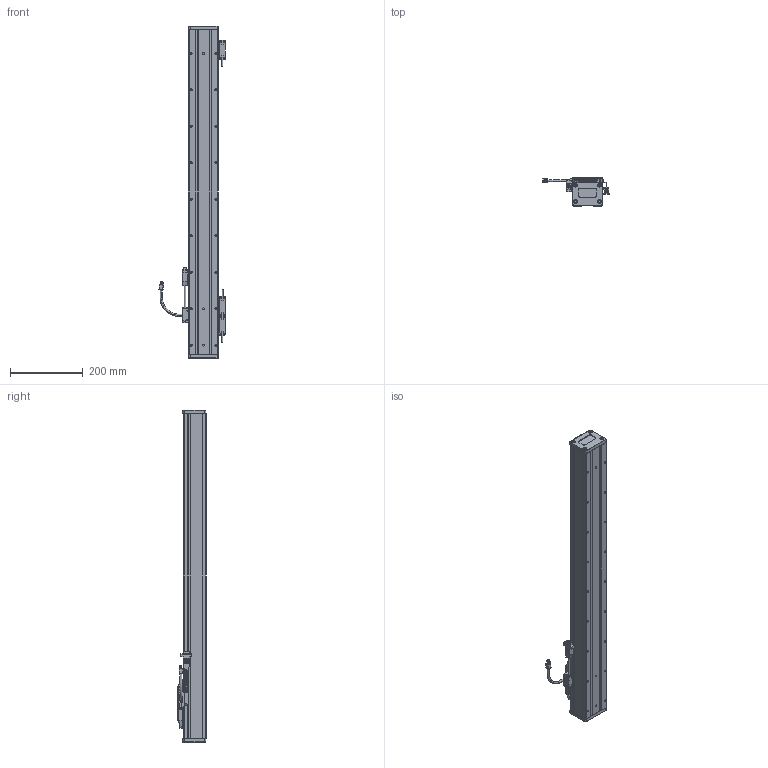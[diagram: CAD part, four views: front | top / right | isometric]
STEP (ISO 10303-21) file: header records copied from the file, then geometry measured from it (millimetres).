
FILE_DESCRIPTION(('Open CASCADE Model'),'2;1');
FILE_NAME('Open CASCADE Shape Model','2025-11-07T02:24:31',('Author'),( 'Open CASCADE'),'Open CASCADE STEP processor 7.6','Open CASCADE 7.6' ,'Unknown');
FILE_SCHEMA(('AUTOMOTIVE_DESIGN { 1 0 10303 214 1 1 1 1 }'));
Length unit declared in the file: millimetre
Products named in the file (24): Open CASCADE STEP translator 7.6 183; Open CASCADE STEP translator 7.6 183.1; Open CASCADE STEP translator 7.6 183.2; Open CASCADE STEP translator 7.6 183.3; Open CASCADE STEP translator 7.6 183.4; Open CASCADE STEP translator 7.6 183.5; Open CASCADE STEP translator 7.6 183.6; Open CASCADE STEP translator 7.6 183.7; Open CASCADE STEP translator 7.6 183.7.1; Open CASCADE STEP translator 7.6 183.7.1.1; Open CASCADE STEP translator 7.6 183.7.1.2; Open CASCADE STEP translator 7.6 183.8; Open CASCADE STEP translator 7.6 183.9; Open CASCADE STEP translator 7.6 183.10; Open CASCADE STEP translator 7.6 183.10.1; Open CASCADE STEP translator 7.6 183.10.1.1; Open CASCADE STEP translator 7.6 183.10.1.2; Open CASCADE STEP translator 7.6 183.10.1.3; Open CASCADE STEP translator 7.6 183.11; Open CASCADE STEP translator 7.6 183.12; Open CASCADE STEP translator 7.6 183.13; Open CASCADE STEP translator 7.6 183.14; Open CASCADE STEP translator 7.6 183.15; Open CASCADE STEP translator 7.6 183.16
Assembly tree (23 placements, depth 4):
  Open CASCADE STEP translator 7.6 183
    Open CASCADE STEP translator 7.6 183.1
    Open CASCADE STEP translator 7.6 183.2
    Open CASCADE STEP translator 7.6 183.3
    Open CASCADE STEP translator 7.6 183.4
    Open CASCADE STEP translator 7.6 183.5
    Open CASCADE STEP translator 7.6 183.6
    Open CASCADE STEP translator 7.6 183.7
      Open CASCADE STEP translator 7.6 183.7.1
        Open CASCADE STEP translator 7.6 183.7.1.1
        Open CASCADE STEP translator 7.6 183.7.1.2
    Open CASCADE STEP translator 7.6 183.8
    Open CASCADE STEP translator 7.6 183.9
    Open CASCADE STEP translator 7.6 183.10
      Open CASCADE STEP translator 7.6 183.10.1
        Open CASCADE STEP translator 7.6 183.10.1.1
        Open CASCADE STEP translator 7.6 183.10.1.2
        Open CASCADE STEP translator 7.6 183.10.1.3
    Open CASCADE STEP translator 7.6 183.11
    Open CASCADE STEP translator 7.6 183.12
    Open CASCADE STEP translator 7.6 183.13
    Open CASCADE STEP translator 7.6 183.14
    Open CASCADE STEP translator 7.6 183.15
    Open CASCADE STEP translator 7.6 183.16
Bounding box: 181.25 x 78 x 910 mm (x, y, z)
Volume: 2773604 mm3; surface area: 604084.9 mm2
Topology: 19 solids, 19 shells, 1930 faces, 4881 edges, 3101 vertices
Faces by surface type: plane 1080, cylinder 648, cone 112, torus 54, bspline 30, sphere 6
Entity records: 132883 total; most frequent: CARTESIAN_POINT 35125, DIRECTION 18505, LINE 11506, VECTOR 11506, ORIENTED_EDGE 9664, PCURVE 9664, DEFINITIONAL_REPRESENTATION 9664, EDGE_CURVE 4832
